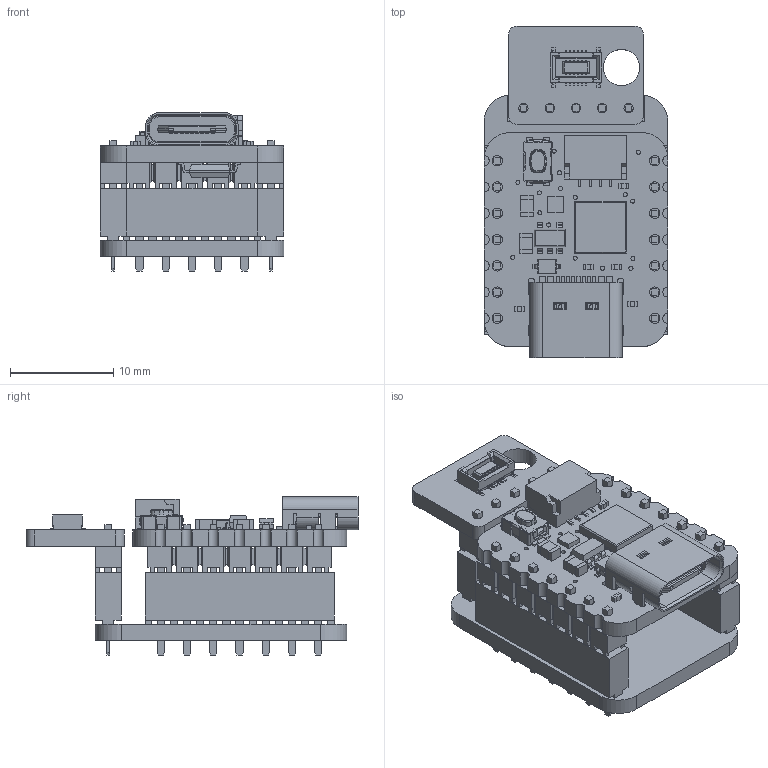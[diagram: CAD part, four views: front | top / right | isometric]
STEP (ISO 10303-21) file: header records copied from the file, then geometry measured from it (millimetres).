
FILE_DESCRIPTION (( 'STEP AP214' ), '1' );
FILE_NAME ('899-100.STEP', '2026-08-13T17:55:38', ( '' ), ( '' ), 'SwSTEP 2.0', 'SolidWorks 2020', '' );
FILE_SCHEMA (( 'AUTOMOTIVE_DESIGN' ));
Length unit declared in the file: millimetre
Products named in the file (33): 5.1K.step; DGS4XX_A; pin^BG095-xxxx gold ass.STEP; MTSW-107-07-G-S-150_body.stp; reset.step; SOIC8_150MIL.step; BG095-07_A_N_D corrected; DF40B-12DS.stp; MTSW-105-07-S-150.stp; BG095-xxxx body_05.STEP; MTSW-107-07-S-150.stp; AP2112K-3.3.step; MTSW-107-07-G-S-150.stp; DGS4XX_QTA board; USB TYPE C.step; STEMMA_I2C_QTSKINNY.step; BG095-07-A-N-D; DGS4XX_QTA; MTSW-105-07-G-S-150.stp; 899-100; Board.step; DGS4XX_A board; MTSW-105-07-G-S-150_body.stp; 10uF.step; pin; BG095-05-A-N-D.STEP; 4600 QTPy.step;   NSR0320.step; WS2812B_SK6805_1515.step; ATSAMD21E.step
Assembly tree (44 placements, depth 4):
  899-100
    DGS4XX_A
      DGS4XX_A board
      MTSW-105-07-G-S-150.stp
        MTSW-105-07-G-S-150_body.stp
        MTSW-105-07-S-150.stp
      DF40B-12DS.stp
    DGS4XX_QTA
      DGS4XX_QTA board
      BG095-05-A-N-D.STEP
        BG095-xxxx body_05.STEP
        pin^BG095-xxxx gold ass.STEP  x4
      BG095-07_A_N_D corrected
        BG095-07-A-N-D
        pin
      BG095-07_A_N_D corrected
        BG095-07-A-N-D
        pin
      4600 QTPy.step
        Board.step
        10uF.step  x2
        reset.step
        ATSAMD21E.step
        5.1K.step  x5
        USB TYPE C.step
        STEMMA_I2C_QTSKINNY.step
        AP2112K-3.3.step
        WS2812B_SK6805_1515.step
          NSR0320.step
        SOIC8_150MIL.step
      MTSW-107-07-G-S-150.stp
        MTSW-107-07-G-S-150_body.stp
        MTSW-107-07-S-150.stp
      MTSW-107-07-G-S-150.stp
        MTSW-107-07-G-S-150_body.stp
        MTSW-107-07-S-150.stp
      pin
Bounding box: 17.78 x 32.1 x 15.32 mm (x, y, z)
Volume: 2474.3 mm3; surface area: 5532.8 mm2
Topology: 85 solids, 85 shells, 3240 faces, 8357 edges, 5400 vertices
Faces by surface type: plane 2713, cylinder 473, bspline 20, torus 16, cone 12, sphere 6
Full cylindrical faces by diameter (mm): 0.39 x1, 0.394 x34, 0.5 x2, 0.65 x2, 0.7 x14, 0.889 x10, 1 x14, 3.5 x1
Entity records: 88598 total; most frequent: CARTESIAN_POINT 16338, ORIENTED_EDGE 14062, DIRECTION 13285, EDGE_CURVE 7031, LINE 5979, VECTOR 5979, VERTEX_POINT 4606, AXIS2_PLACEMENT_3D 3653
